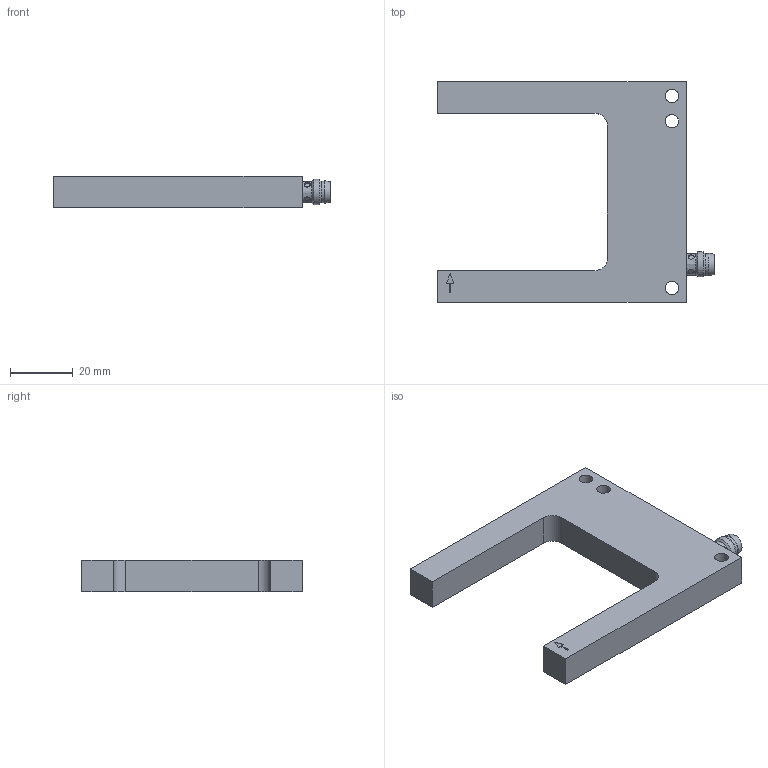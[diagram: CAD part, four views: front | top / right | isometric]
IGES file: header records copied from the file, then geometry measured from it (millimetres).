
Global section: file name: 153-00266_FGL 50-R-PSM3; native system: Autodesk Inventor 2018; preprocessor: unknown; author: ss; date: 20190213.120201; units: millimetre
Bounding box: 88 x 70 x 10 mm (x, y, z)
Volume: 28148.5 mm3; surface area: 10392.6 mm2
Topology: 1 solids, 1 shells, 65 faces, 172 edges, 123 vertices
Faces by surface type: bspline 65
